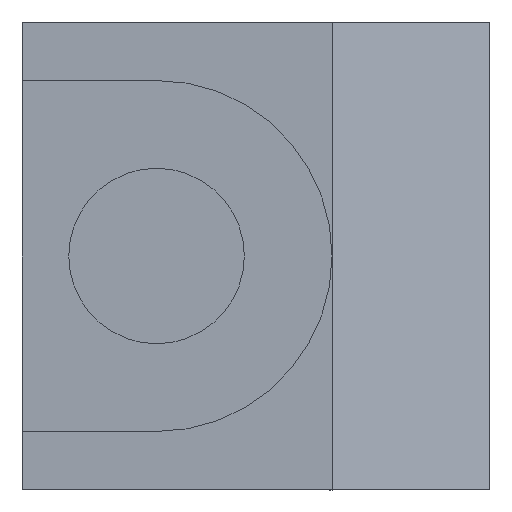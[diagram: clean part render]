
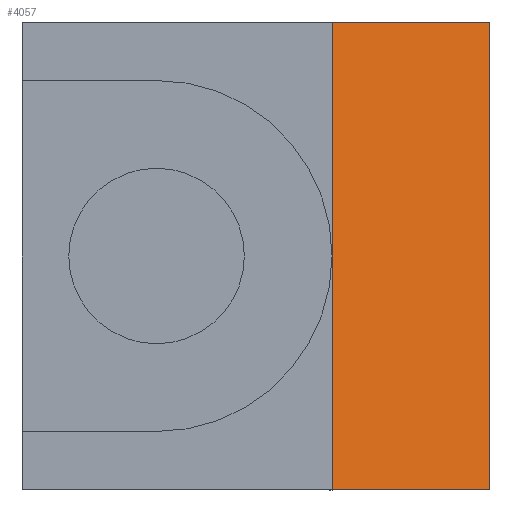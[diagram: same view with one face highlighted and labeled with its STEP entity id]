
A CAD part, left-side view. The second image highlights one B-rep face of the part: STEP entity #4057.
In plain terms, the highlighted planar face has unit normal (-0.938, -0.347, 0).
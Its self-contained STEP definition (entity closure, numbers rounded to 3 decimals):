
#40 = ORIENTED_EDGE ( 'NONE', *, *, #4422, .F. ) ;
#80 = CARTESIAN_POINT ( 'NONE',  ( 20., -8., 8. ) ) ;
#237 = CARTESIAN_POINT ( 'NONE',  ( 20., -8., 8. ) ) ;
#420 = VECTOR ( 'NONE', #1366, 1000. ) ;
#733 = CARTESIAN_POINT ( 'NONE',  ( 20., -8., 0. ) ) ;
#836 = DIRECTION ( 'NONE',  ( 0.347, -0.938, 0. ) ) ;
#1242 = VECTOR ( 'NONE', #836, 1000. ) ;
#1330 = AXIS2_PLACEMENT_3D ( 'NONE', #1504, #4838, #3151 ) ;
#1366 = DIRECTION ( 'NONE',  ( 0., 0., -1. ) ) ;
#1389 = PLANE ( 'NONE',  #1330 ) ;
#1454 = DIRECTION ( 'NONE',  ( 0., 0., -1. ) ) ;
#1504 = CARTESIAN_POINT ( 'NONE',  ( 20., -8., 8. ) ) ;
#1542 = LINE ( 'NONE', #237, #4226 ) ;
#1715 = CARTESIAN_POINT ( 'NONE',  ( 19., -5.3, 8. ) ) ;
#1930 = FACE_OUTER_BOUND ( 'NONE', #5131, .T. ) ;
#2616 = ORIENTED_EDGE ( 'NONE', *, *, #4652, .F. ) ;
#2627 = LINE ( 'NONE', #1715, #420 ) ;
#3000 = VERTEX_POINT ( 'NONE', #80 ) ;
#3003 = ORIENTED_EDGE ( 'NONE', *, *, #4524, .T. ) ;
#3063 = CARTESIAN_POINT ( 'NONE',  ( 19., -5.3, 0. ) ) ;
#3069 = ORIENTED_EDGE ( 'NONE', *, *, #4928, .T. ) ;
#3151 = DIRECTION ( 'NONE',  ( 0., 0., -1. ) ) ;
#3480 = VERTEX_POINT ( 'NONE', #4647 ) ;
#3764 = LINE ( 'NONE', #4247, #1242 ) ;
#3909 = LINE ( 'NONE', #4846, #4408 ) ;
#4057 = ADVANCED_FACE ( 'NONE', ( #1930 ), #1389, .F. ) ;
#4226 = VECTOR ( 'NONE', #1454, 1000. ) ;
#4247 = CARTESIAN_POINT ( 'NONE',  ( 20., -8., 8. ) ) ;
#4408 = VECTOR ( 'NONE', #5622, 1000. ) ;
#4422 = EDGE_CURVE ( 'NONE', #3480, #3000, #3764, .T. ) ;
#4524 = EDGE_CURVE ( 'NONE', #5479, #5436, #3909, .T. ) ;
#4647 = CARTESIAN_POINT ( 'NONE',  ( 19., -5.3, 8. ) ) ;
#4652 = EDGE_CURVE ( 'NONE', #3000, #5436, #1542, .T. ) ;
#4838 = DIRECTION ( 'NONE',  ( 0.938, 0.347, 0. ) ) ;
#4846 = CARTESIAN_POINT ( 'NONE',  ( 20., -8., 0. ) ) ;
#4928 = EDGE_CURVE ( 'NONE', #3480, #5479, #2627, .T. ) ;
#5131 = EDGE_LOOP ( 'NONE', ( #3003, #2616, #40, #3069 ) ) ;
#5436 = VERTEX_POINT ( 'NONE', #733 ) ;
#5479 = VERTEX_POINT ( 'NONE', #3063 ) ;
#5622 = DIRECTION ( 'NONE',  ( 0.347, -0.938, 0. ) ) ;
